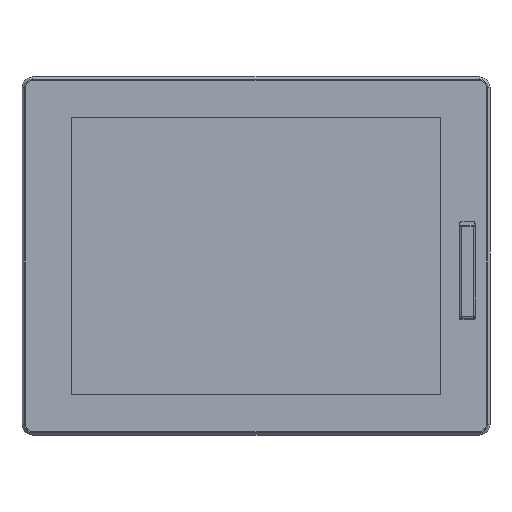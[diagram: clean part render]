
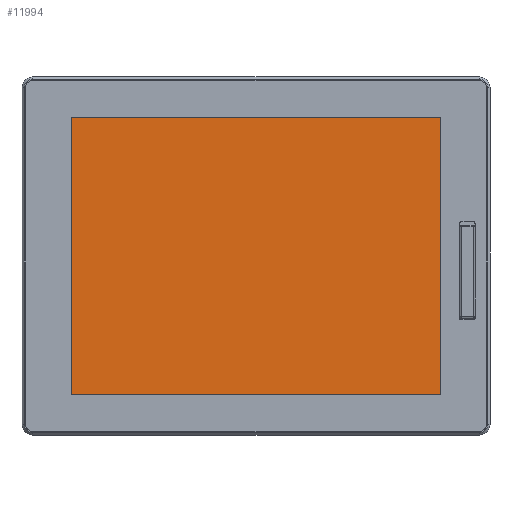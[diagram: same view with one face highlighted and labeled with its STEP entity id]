
A CAD part, top view. The second image highlights one B-rep face of the part: STEP entity #11994.
In plain terms, the highlighted planar face has unit normal (0, 0, 1).
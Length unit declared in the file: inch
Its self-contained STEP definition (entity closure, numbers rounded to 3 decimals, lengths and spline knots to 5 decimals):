
#4428=CARTESIAN_POINT('',(1.35433,8.37992,2.64756));
#4429=DIRECTION('',(0.,0.,-1.));
#4430=DIRECTION('',(-1.,0.,0.));
#4431=AXIS2_PLACEMENT_3D('',#4428,#4429,#4430);
#4433=DIRECTION('',(1.,0.,0.));
#4434=VECTOR('',#4433,9.69291);
#4435=CARTESIAN_POINT('',(1.35433,8.41929,2.64756));
#4436=LINE('',#4435,#4434);
#4437=CARTESIAN_POINT('',(11.04724,8.37992,2.64756));
#4438=DIRECTION('',(0.,0.,-1.));
#4439=DIRECTION('',(0.,1.,0.));
#4440=AXIS2_PLACEMENT_3D('',#4437,#4438,#4439);
#4442=DIRECTION('',(0.,-1.,0.));
#4443=VECTOR('',#4442,7.27165);
#4444=CARTESIAN_POINT('',(11.08661,8.37992,2.64756));
#4445=LINE('',#4444,#4443);
#4446=CARTESIAN_POINT('',(11.04724,1.10827,2.64756));
#4447=DIRECTION('',(0.,0.,-1.));
#4448=DIRECTION('',(1.,0.,0.));
#4449=AXIS2_PLACEMENT_3D('',#4446,#4447,#4448);
#4451=DIRECTION('',(-1.,0.,0.));
#4452=VECTOR('',#4451,9.69291);
#4453=CARTESIAN_POINT('',(11.04724,1.0689,2.64756));
#4454=LINE('',#4453,#4452);
#4455=CARTESIAN_POINT('',(1.35433,1.10827,2.64756));
#4456=DIRECTION('',(0.,0.,-1.));
#4457=DIRECTION('',(0.,-1.,0.));
#4458=AXIS2_PLACEMENT_3D('',#4455,#4456,#4457);
#4460=DIRECTION('',(0.,1.,0.));
#4461=VECTOR('',#4460,7.27165);
#4462=CARTESIAN_POINT('',(1.31496,1.10827,2.64756));
#4463=LINE('',#4462,#4461);
#5856=CARTESIAN_POINT('',(1.35433,8.41929,2.64756));
#5857=VERTEX_POINT('',#5856);
#5858=CARTESIAN_POINT('',(1.31496,8.37992,2.64756));
#5859=VERTEX_POINT('',#5858);
#5860=CARTESIAN_POINT('',(11.04724,8.41929,2.64756));
#5861=VERTEX_POINT('',#5860);
#5862=CARTESIAN_POINT('',(11.08661,8.37992,2.64756));
#5863=VERTEX_POINT('',#5862);
#5864=CARTESIAN_POINT('',(11.08661,1.10827,2.64756));
#5865=VERTEX_POINT('',#5864);
#5866=CARTESIAN_POINT('',(11.04724,1.0689,2.64756));
#5867=VERTEX_POINT('',#5866);
#5868=CARTESIAN_POINT('',(1.35433,1.0689,2.64756));
#5869=VERTEX_POINT('',#5868);
#5870=CARTESIAN_POINT('',(1.31496,1.10827,2.64756));
#5871=VERTEX_POINT('',#5870);
#11979=CARTESIAN_POINT('',(6.20079,4.74409,2.64756));
#11980=DIRECTION('',(0.,0.,1.));
#11981=DIRECTION('',(1.,0.,0.));
#11982=AXIS2_PLACEMENT_3D('',#11979,#11980,#11981);
#11983=PLANE('',#11982);
#11984=ORIENTED_EDGE('',*,*,#11875,.T.);
#11985=ORIENTED_EDGE('',*,*,#11890,.T.);
#11986=ORIENTED_EDGE('',*,*,#11904,.T.);
#11987=ORIENTED_EDGE('',*,*,#11918,.T.);
#11988=ORIENTED_EDGE('',*,*,#11932,.T.);
#11989=ORIENTED_EDGE('',*,*,#11946,.T.);
#11990=ORIENTED_EDGE('',*,*,#11960,.T.);
#11991=ORIENTED_EDGE('',*,*,#11973,.T.);
#11992=EDGE_LOOP('',(#11984,#11985,#11986,#11987,#11988,#11989,#11990,#11991));
#11993=FACE_OUTER_BOUND('',#11992,.F.);
#11994=ADVANCED_FACE('',(#11993),#11983,.T.);
#4432=CIRCLE('',#4431,0.03937);
#4441=CIRCLE('',#4440,0.03937);
#4450=CIRCLE('',#4449,0.03937);
#4459=CIRCLE('',#4458,0.03937);
#11875=EDGE_CURVE('',#5859,#5857,#4432,.T.);
#11890=EDGE_CURVE('',#5857,#5861,#4436,.T.);
#11904=EDGE_CURVE('',#5861,#5863,#4441,.T.);
#11918=EDGE_CURVE('',#5863,#5865,#4445,.T.);
#11932=EDGE_CURVE('',#5865,#5867,#4450,.T.);
#11946=EDGE_CURVE('',#5867,#5869,#4454,.T.);
#11960=EDGE_CURVE('',#5869,#5871,#4459,.T.);
#11973=EDGE_CURVE('',#5871,#5859,#4463,.T.);
